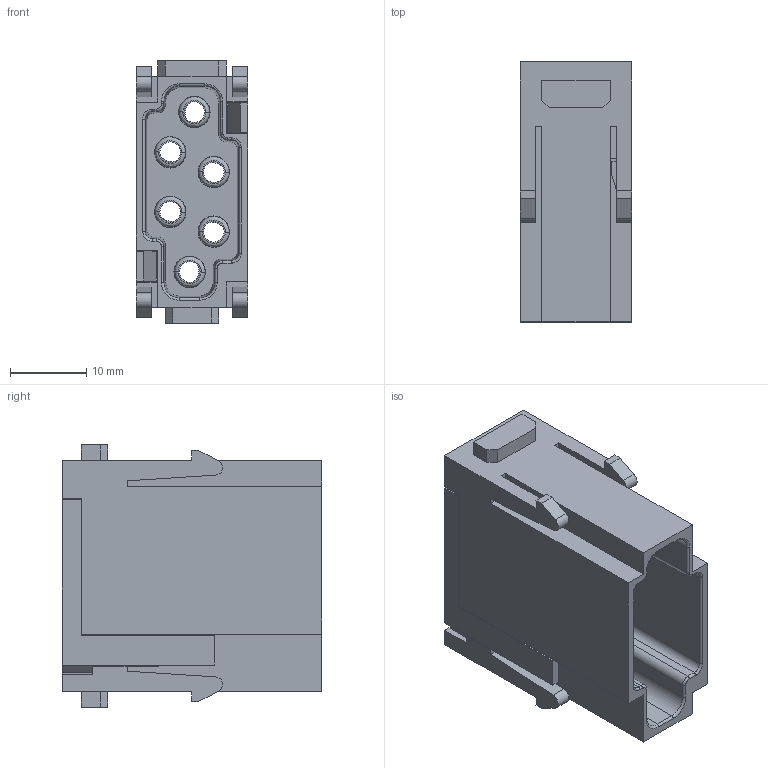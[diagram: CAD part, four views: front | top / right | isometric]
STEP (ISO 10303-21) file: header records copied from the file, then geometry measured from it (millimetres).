
FILE_DESCRIPTION (( 'STEP AP203' ), '1' );
FILE_NAME ('HM-006-M.STEP', '2023-06-30T05:48:44', ( '' ), ( '' ), 'SwSTEP 2.0', 'SolidWorks 2016', '' );
FILE_SCHEMA (( 'CONFIG_CONTROL_DESIGN' ));
Length unit declared in the file: millimetre
Products named in the file (1): HM-006-M
Bounding box: 14.6 x 34 x 34.3 mm (x, y, z)
Volume: 7553.3 mm3; surface area: 10177.8 mm2
Topology: 1 solids, 8 shells, 594 faces, 1611 edges, 1046 vertices
Faces by surface type: plane 318, cylinder 174, cone 52, bspline 36, torus 14
Entity records: 21237 total; most frequent: CARTESIAN_POINT 6235, ORIENTED_EDGE 3222, DIRECTION 3090, EDGE_CURVE 1611, AXIS2_PLACEMENT_3D 1125, VERTEX_POINT 1046, VECTOR 840, LINE 840
